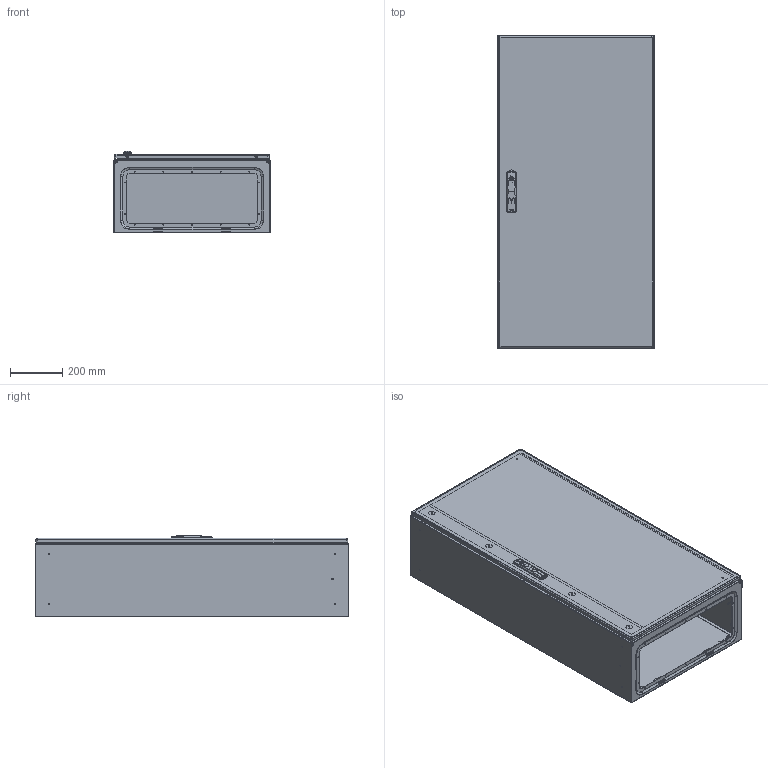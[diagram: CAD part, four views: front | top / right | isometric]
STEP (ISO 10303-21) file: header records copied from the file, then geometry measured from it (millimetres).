
FILE_DESCRIPTION (( 'STEP AP214' ), '1' );
FILE_NAME ('DM 256.123--DM-M 600x1200x300.STEP', '2020-11-02T14:32:50', ( '' ), ( '' ), 'SwSTEP 2.0', 'SolidWorks 2019', '' );
FILE_SCHEMA (( 'AUTOMOTIVE_DESIGN' ));
Length unit declared in the file: millimetre
Products named in the file (125): Rondela 2019; Kollu Kilit Mekanizma - 9; Kollu Kilit Mekanizma - 10; Menteþe Pim - 2 2019; CT.2 - Çubuk Tutucu - Montaj_1200Y; M8 Montaj Plakasý Somunu; Kollu Kilit Mekanizma - 7; CY.1.24 - Çubuk Yataðý; DM Kapak Ic Atki; Cap 6,6 Plastik Tipa; Mentese Erkek 2019; Cap 5,7 Plastik Tipa; Kollu Kilit Mekanizma - 4; MP 19.3087--DM Mon. Pl. Destek Takozu; Kollu Kilit Mekanizma - 3; Kollu Kilit Mekanizma - 1; Plastik Rondela 2019; DM Kapý Guide; Menteþe 2019_2; DM On Kapi 2mm; MP 19.3063 orta Mentese  20042020; IC.2 - Ýspanyolet Çubuk_1200Y; Sac Kilit Dili 3x45; Sýfýr Kafa AKB Perçin Somun; Kollu Kilit Mekanizma - 6; torque nut 01_iso_ISO 7040-M4-N; hex flange nut gradea_iso; MP 19.3064 - KOLSUZ KÝLÝT - Gövde; MP 19.3064 - KOLSUZ KÝLÝT - Gövde Montaj; 32002180; hex flange nut gradea_iso_ISO - 4161 - M8 - C; Kollu Kilit Mekanizma - 11; DM On Kapi 2mm_PP 20.0134--600x1200; Kollu Kilit Mekanizma - 5; CT.2 - Çubuk Tutucu; DM Kapak Ic Atki_PP 20.0199--1200Y; DM 256.123--DM-M 600x1200x300; MP 19.3064 - KOLSUZ K尳嵨 - Montaj_1200Y; IC.2 - Ýspanyolet Çubuk; MP 19.3064 - KOLSUZ K尳嵨 - Doublebit Insert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
Assembly tree (87 placements, depth 6):
  Rondela 2019
  Kollu Kilit Mekanizma - 10
  Menteþe Pim - 2 2019
  M8 Montaj Plakasý Somunu
  Kollu Kilit Mekanizma - 7
Bounding box: 600.02 x 1201.07 x 310.96 mm (x, y, z)
Topology: 97 solids, 153 shells, 6226 faces, 15555 edges, 9661 vertices
Faces by surface type: plane 3483, cylinder 1481, cone 591, bspline 338, torus 303, sphere 30
Entity records: 144356 total; most frequent: CARTESIAN_POINT 48273, ORIENTED_EDGE 20503, DIRECTION 17084, EDGE_CURVE 10328, AXIS2_PLACEMENT_3D 6481, VERTEX_POINT 6452, EDGE_LOOP 4482, LINE 4122
